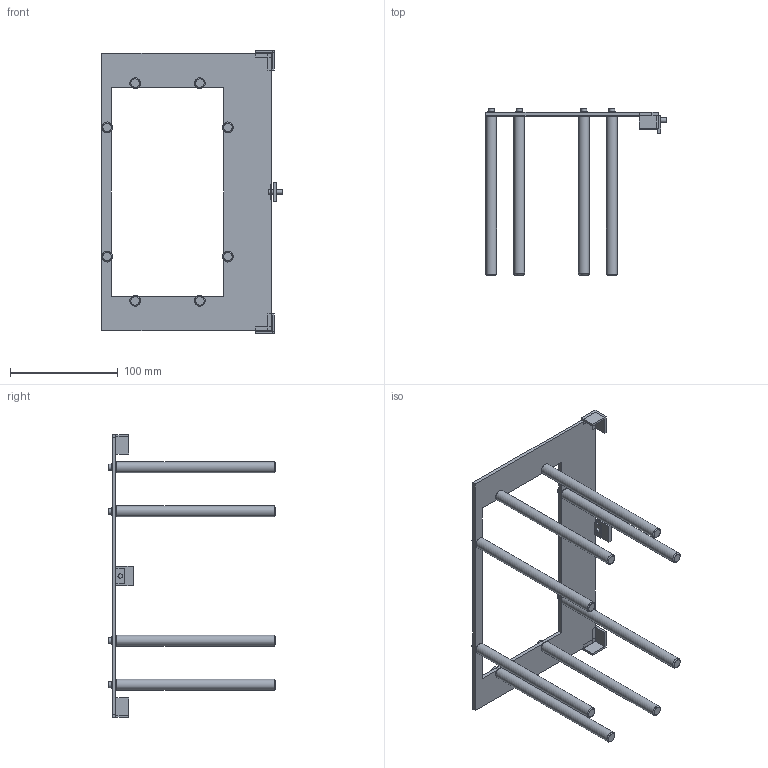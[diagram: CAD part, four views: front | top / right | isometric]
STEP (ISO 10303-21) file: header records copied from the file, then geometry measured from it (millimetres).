
FILE_DESCRIPTION(('Open CASCADE Model'),'2;1');
FILE_NAME('Open CASCADE Shape Model','2026-11-06T01:59:31',('Author'),( 'Open CASCADE'),'Open CASCADE STEP processor 7.8','Open CASCADE 7.8' ,'Unknown');
FILE_SCHEMA(('AUTOMOTIVE_DESIGN { 1 0 10303 214 1 1 1 1 }'));
Length unit declared in the file: millimetre
Products named in the file (31): Right_Guide_Module_R02; Right_independent_top_plate; Right_Guide_01; Right_M3_screw_envelope_00; Right_washer_envelope_00; Right_Guide_02; Right_M3_screw_envelope_01; Right_washer_envelope_01; Right_Guide_03; Right_M3_screw_envelope_02; Right_washer_envelope_02; Right_Guide_04; Right_M3_screw_envelope_03; Right_washer_envelope_03; Right_Guide_05; Right_M3_screw_envelope_04; Right_washer_envelope_04; Right_Guide_06; Right_M3_screw_envelope_05; Right_washer_envelope_05; Right_Guide_07; Right_M3_screw_envelope_06; Right_washer_envelope_06; Right_Guide_08; Right_M3_screw_envelope_07; Right_washer_envelope_07; Right_locator_-1; Right_locator_1; Right_clamp_pad_CONCEPT; Right_clamp_tab_CONCEPT; Right_clamp_screw_CONCEPT
Assembly tree (30 placements, depth 2):
  Right_Guide_Module_R02
    Right_independent_top_plate
    Right_Guide_01
    Right_M3_screw_envelope_00
    Right_washer_envelope_00
    Right_Guide_02
    Right_M3_screw_envelope_01
    Right_washer_envelope_01
    Right_Guide_03
    Right_M3_screw_envelope_02
    Right_washer_envelope_02
    Right_Guide_04
    Right_M3_screw_envelope_03
    Right_washer_envelope_03
    Right_Guide_05
    Right_M3_screw_envelope_04
    Right_washer_envelope_04
    Right_Guide_06
    Right_M3_screw_envelope_05
    Right_washer_envelope_05
    Right_Guide_07
    Right_M3_screw_envelope_06
    Right_washer_envelope_06
    Right_Guide_08
    Right_M3_screw_envelope_07
    Right_washer_envelope_07
    Right_locator_-1
    Right_locator_1
    Right_clamp_pad_CONCEPT
    Right_clamp_tab_CONCEPT
    Right_clamp_screw_CONCEPT
Bounding box: 167.5 x 154.6 x 262.5 mm (x, y, z)
Volume: 158549.6 mm3; surface area: 90318.8 mm2
Topology: 30 solids, 30 shells, 239 faces, 443 edges, 280 vertices
Faces by surface type: plane 154, cylinder 69, cone 16
Full cylindrical faces by diameter (mm): 2.5 x8, 3 x8, 3.2 x8, 4 x1, 5.5 x8, 7 x8, 10 x8
Entity records: 12329 total; most frequent: CARTESIAN_POINT 1999, DIRECTION 1903, LINE 917, VECTOR 917, ORIENTED_EDGE 886, PCURVE 886, DEFINITIONAL_REPRESENTATION 886, EDGE_CURVE 443
